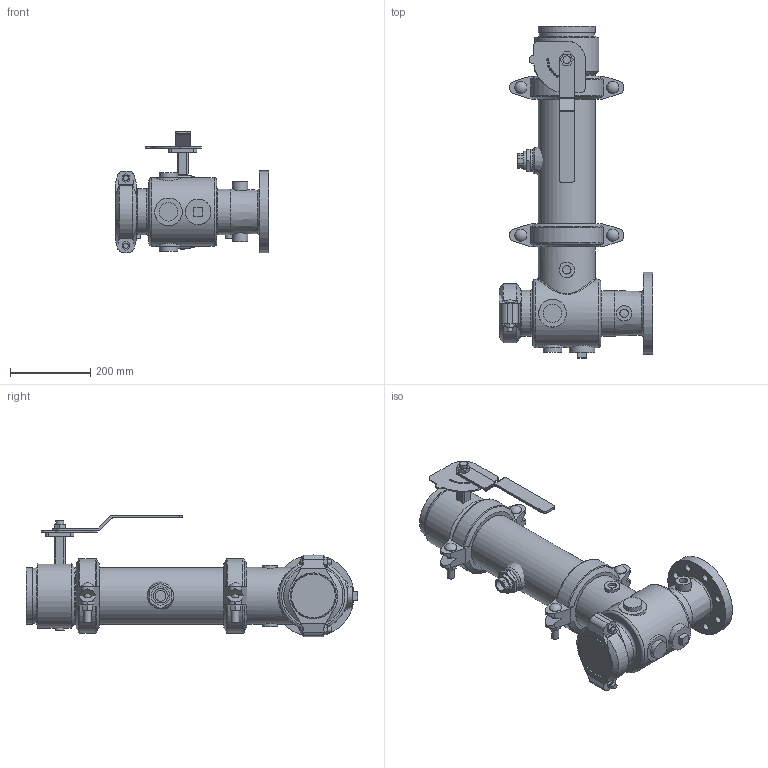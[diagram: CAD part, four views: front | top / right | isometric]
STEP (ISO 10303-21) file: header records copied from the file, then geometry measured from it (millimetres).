
FILE_DESCRIPTION(/* description */ ('VIC SVI PUMP DROP HORZ S/391 (OGSxFLG)','CAx-IF Rec.Pracs.---Representation and Presentation of Product Manufacturing Information (PMI)---4.0---2014-10-13'),/* implementation_level */ '2;1');
FILE_NAME(/* name */ 'C:\Users\kkamble\AppData\Roaming\Autodesk\ApplicationPlugins\Back Up\Victaulic_PN10_Series 391 (OGSxFLG)\Victaulic_PN10_Series 391 (OGSxFLG)_05.0x03.0 (125x80).stp',/* time_stamp */ '2020-11-26T23:44:11+05:00',/* author */ ('kkamble'),/* organization */ ('Victaulic'),/* preprocessor_version */ 'ST-DEVELOPER v17.2',/* originating_system */ 'Autodesk Inventor 2019',/* authorisation */ '');
FILE_SCHEMA (('AP242_MANAGED_MODEL_BASED_3D_ENGINEERING_MIM_LF { 1 0 10303 442 1 1 4 }'));
Length unit declared in the file: inch
Products named in the file (9): 391-05.0x03.0; 731D-05.0x03.0; 731D-05.0x03.0_1; 731D-05.0; 07-04.0; PIPE-05.0; 177N-05.0; 761-05.0; 923-04.0x0.75
Assembly tree (9 placements, depth 3):
  391-05.0x03.0
    731D-05.0x03.0
      731D-05.0x03.0_1
      731D-05.0
      07-04.0
    177N-05.0  x2
    PIPE-05.0
    761-05.0
    923-04.0x0.75
Bounding box: 381 x 824.99 x 302.01 mm (x, y, z)
Volume: 8002593.7 mm3; surface area: 1366333.9 mm2
Topology: 8 solids, 11 shells, 532 faces, 1378 edges, 930 vertices
Faces by surface type: plane 298, cylinder 191, cone 19, torus 17, sphere 6, bspline 1
Full cylindrical faces by diameter (mm): 4.826 x10, 8.636 x4, 12.7 x4, 17.78 x4, 18.009 x8, 19.05 x2, 20.955 x4, 22.225 x2, 22.86 x1, 26.67 x1, 30.48 x4, 38.1 x4, 45.72 x3, 45.974 x2, 55.118 x1, 55.626 x1, 63.5 x1, 76.2 x1, 84.074 x1, 90.678 x1, 96.52 x1, 107.95 x1, 110.084 x2, 113.03 x1, 114.3 x5, 121.412 x1, 128.194 x2, 128.6 x2, 137.033 x5, 141.3 x13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
Entity records: 15629 total; most frequent: CARTESIAN_POINT 3543, DIRECTION 2485, ORIENTED_EDGE 2276, EDGE_CURVE 1138, AXIS2_PLACEMENT_3D 948, VERTEX_POINT 771, LINE 589, VECTOR 589
